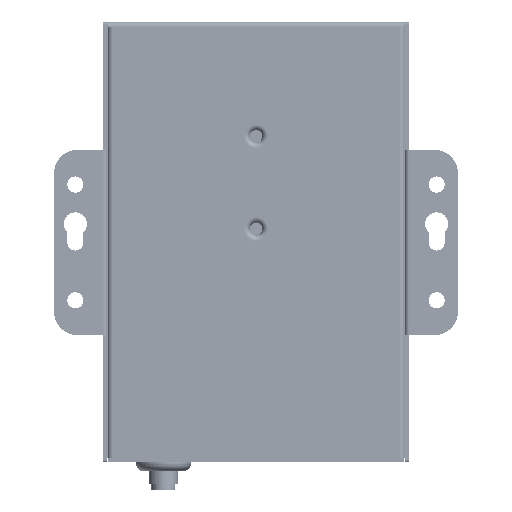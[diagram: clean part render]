
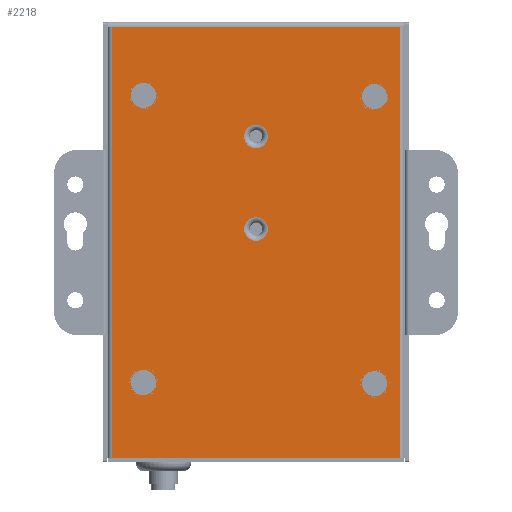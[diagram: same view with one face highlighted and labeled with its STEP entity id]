
A CAD part, front view. The second image highlights one B-rep face of the part: STEP entity #2218.
In plain terms, the highlighted planar face has unit normal (0, -1, 0).
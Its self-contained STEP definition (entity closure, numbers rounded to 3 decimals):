
#608=DIRECTION('',(-1.,0.,0.));
#609=VECTOR('',#608,62.);
#610=CARTESIAN_POINT('',(31.,0.,46.6));
#611=LINE('',#610,#609);
#615=DIRECTION('',(0.,0.,1.));
#616=VECTOR('',#615,0.1);
#617=CARTESIAN_POINT('',(31.,0.,46.5));
#618=LINE('',#617,#616);
#622=DIRECTION('',(0.,0.,1.));
#623=VECTOR('',#622,93.);
#624=CARTESIAN_POINT('',(31.,0.,-46.5));
#625=LINE('',#624,#623);
#629=DIRECTION('',(1.,0.,0.));
#630=VECTOR('',#629,62.);
#631=CARTESIAN_POINT('',(-31.,0.,-46.5));
#632=LINE('',#631,#630);
#636=DIRECTION('',(0.,0.,-1.));
#637=VECTOR('',#636,93.);
#638=CARTESIAN_POINT('',(-31.,0.,46.5));
#639=LINE('',#638,#637);
#643=DIRECTION('',(0.,0.,-1.));
#644=VECTOR('',#643,0.1);
#645=CARTESIAN_POINT('',(-31.,0.,46.6));
#646=LINE('',#645,#644);
#650=CARTESIAN_POINT('',(25.604,0.,-30.491));
#651=DIRECTION('',(0.,1.,0.));
#652=DIRECTION('',(-1.,0.,0.));
#653=AXIS2_PLACEMENT_3D('',#650,#651,#652);
#658=CARTESIAN_POINT('',(25.604,0.,-30.491));
#659=DIRECTION('',(0.,1.,0.));
#660=DIRECTION('',(1.,0.,0.));
#661=AXIS2_PLACEMENT_3D('',#658,#659,#660);
#666=CARTESIAN_POINT('',(25.604,0.,31.509));
#667=DIRECTION('',(0.,1.,0.));
#668=DIRECTION('',(-1.,0.,0.));
#669=AXIS2_PLACEMENT_3D('',#666,#667,#668);
#674=CARTESIAN_POINT('',(25.604,0.,31.509));
#675=DIRECTION('',(0.,1.,0.));
#676=DIRECTION('',(1.,0.,0.));
#677=AXIS2_PLACEMENT_3D('',#674,#675,#676);
#682=CARTESIAN_POINT('',(-24.296,0.,31.749));
#683=DIRECTION('',(0.,1.,0.));
#684=DIRECTION('',(-1.,0.,0.));
#685=AXIS2_PLACEMENT_3D('',#682,#683,#684);
#690=CARTESIAN_POINT('',(-24.296,0.,31.749));
#691=DIRECTION('',(0.,1.,0.));
#692=DIRECTION('',(1.,0.,0.));
#693=AXIS2_PLACEMENT_3D('',#690,#691,#692);
#698=CARTESIAN_POINT('',(-24.296,0.,-30.251));
#699=DIRECTION('',(0.,1.,0.));
#700=DIRECTION('',(-1.,0.,0.));
#701=AXIS2_PLACEMENT_3D('',#698,#699,#700);
#706=CARTESIAN_POINT('',(-24.296,0.,-30.251));
#707=DIRECTION('',(0.,1.,0.));
#708=DIRECTION('',(1.,0.,0.));
#709=AXIS2_PLACEMENT_3D('',#706,#707,#708);
#1100=CARTESIAN_POINT('',(0.,0.,22.9));
#1101=DIRECTION('',(0.,-1.,0.));
#1102=DIRECTION('',(0.,0.,-1.));
#1103=AXIS2_PLACEMENT_3D('',#1100,#1101,#1102);
#1124=CARTESIAN_POINT('',(0.,0.,22.9));
#1125=DIRECTION('',(0.,-1.,0.));
#1126=DIRECTION('',(0.,0.,1.));
#1127=AXIS2_PLACEMENT_3D('',#1124,#1125,#1126);
#1270=CARTESIAN_POINT('',(0.,0.,2.9));
#1271=DIRECTION('',(0.,-1.,0.));
#1272=DIRECTION('',(0.,0.,-1.));
#1273=AXIS2_PLACEMENT_3D('',#1270,#1271,#1272);
#1294=CARTESIAN_POINT('',(0.,0.,2.9));
#1295=DIRECTION('',(0.,-1.,0.));
#1296=DIRECTION('',(0.,0.,1.));
#1297=AXIS2_PLACEMENT_3D('',#1294,#1295,#1296);
#1558=CARTESIAN_POINT('',(31.,0.,-46.5));
#1559=CARTESIAN_POINT('',(31.,0.,46.5));
#1560=VERTEX_POINT('',#1558);
#1561=VERTEX_POINT('',#1559);
#1570=CARTESIAN_POINT('',(31.,0.,46.6));
#1571=CARTESIAN_POINT('',(-31.,0.,46.6));
#1572=VERTEX_POINT('',#1570);
#1573=VERTEX_POINT('',#1571);
#1594=CARTESIAN_POINT('',(-31.,0.,46.5));
#1595=CARTESIAN_POINT('',(-31.,0.,-46.5));
#1596=VERTEX_POINT('',#1594);
#1597=VERTEX_POINT('',#1595);
#1626=CARTESIAN_POINT('',(-26.996,0.,-30.251));
#1627=CARTESIAN_POINT('',(-21.596,0.,-30.251));
#1628=VERTEX_POINT('',#1626);
#1629=VERTEX_POINT('',#1627);
#1630=CARTESIAN_POINT('',(-26.996,0.,31.749));
#1631=CARTESIAN_POINT('',(-21.596,0.,31.749));
#1632=VERTEX_POINT('',#1630);
#1633=VERTEX_POINT('',#1631);
#1634=CARTESIAN_POINT('',(22.904,0.,31.509));
#1635=CARTESIAN_POINT('',(28.304,0.,31.509));
#1636=VERTEX_POINT('',#1634);
#1637=VERTEX_POINT('',#1635);
#1642=CARTESIAN_POINT('',(22.904,0.,-30.491));
#1643=CARTESIAN_POINT('',(28.304,0.,-30.491));
#1644=VERTEX_POINT('',#1642);
#1645=VERTEX_POINT('',#1643);
#1670=CARTESIAN_POINT('',(0.,0.,20.35));
#1672=VERTEX_POINT('',#1670);
#1676=CARTESIAN_POINT('',(0.,0.,25.45));
#1678=VERTEX_POINT('',#1676);
#1694=CARTESIAN_POINT('',(0.,0.,0.35));
#1696=VERTEX_POINT('',#1694);
#1700=CARTESIAN_POINT('',(0.,0.,5.45));
#1702=VERTEX_POINT('',#1700);
#2167=CARTESIAN_POINT('',(0.,0.,0.));
#2168=DIRECTION('',(0.,-1.,0.));
#2169=DIRECTION('',(0.,0.,-1.));
#2170=AXIS2_PLACEMENT_3D('',#2167,#2168,#2169);
#2171=PLANE('',#2170);
#2172=ORIENTED_EDGE('',*,*,#2136,.F.);
#2173=ORIENTED_EDGE('',*,*,#1833,.F.);
#2175=ORIENTED_EDGE('',*,*,#2174,.F.);
#2176=ORIENTED_EDGE('',*,*,#1933,.F.);
#2178=ORIENTED_EDGE('',*,*,#2177,.F.);
#2179=ORIENTED_EDGE('',*,*,#2035,.F.);
#2180=EDGE_LOOP('',(#2172,#2173,#2175,#2176,#2178,#2179));
#2181=FACE_OUTER_BOUND('',#2180,.F.);
#2183=ORIENTED_EDGE('',*,*,#2182,.F.);
#2185=ORIENTED_EDGE('',*,*,#2184,.F.);
#2186=EDGE_LOOP('',(#2183,#2185));
#2187=FACE_BOUND('',#2186,.F.);
#2189=ORIENTED_EDGE('',*,*,#2188,.F.);
#2191=ORIENTED_EDGE('',*,*,#2190,.F.);
#2192=EDGE_LOOP('',(#2189,#2191));
#2193=FACE_BOUND('',#2192,.F.);
#2195=ORIENTED_EDGE('',*,*,#2194,.F.);
#2197=ORIENTED_EDGE('',*,*,#2196,.F.);
#2198=EDGE_LOOP('',(#2195,#2197));
#2199=FACE_BOUND('',#2198,.F.);
#2201=ORIENTED_EDGE('',*,*,#2200,.F.);
#2203=ORIENTED_EDGE('',*,*,#2202,.F.);
#2204=EDGE_LOOP('',(#2201,#2203));
#2205=FACE_BOUND('',#2204,.F.);
#2207=ORIENTED_EDGE('',*,*,#2206,.T.);
#2209=ORIENTED_EDGE('',*,*,#2208,.T.);
#2210=EDGE_LOOP('',(#2207,#2209));
#2211=FACE_BOUND('',#2210,.F.);
#2213=ORIENTED_EDGE('',*,*,#2212,.T.);
#2215=ORIENTED_EDGE('',*,*,#2214,.T.);
#2216=EDGE_LOOP('',(#2213,#2215));
#2217=FACE_BOUND('',#2216,.F.);
#2218=ADVANCED_FACE('',(#2181,#2187,#2193,#2199,#2205,#2211,#2217),#2171,.T.);
#654=CIRCLE('',#653,2.7);
#662=CIRCLE('',#661,2.7);
#670=CIRCLE('',#669,2.7);
#678=CIRCLE('',#677,2.7);
#686=CIRCLE('',#685,2.7);
#694=CIRCLE('',#693,2.7);
#702=CIRCLE('',#701,2.7);
#710=CIRCLE('',#709,2.7);
#1104=CIRCLE('',#1103,2.55);
#1128=CIRCLE('',#1127,2.55);
#1274=CIRCLE('',#1273,2.55);
#1298=CIRCLE('',#1297,2.55);
#1833=EDGE_CURVE('',#1561,#1572,#618,.T.);
#1933=EDGE_CURVE('',#1597,#1560,#632,.T.);
#2035=EDGE_CURVE('',#1573,#1596,#646,.T.);
#2136=EDGE_CURVE('',#1572,#1573,#611,.T.);
#2174=EDGE_CURVE('',#1560,#1561,#625,.T.);
#2177=EDGE_CURVE('',#1596,#1597,#639,.T.);
#2182=EDGE_CURVE('',#1644,#1645,#654,.T.);
#2184=EDGE_CURVE('',#1645,#1644,#662,.T.);
#2188=EDGE_CURVE('',#1636,#1637,#670,.T.);
#2190=EDGE_CURVE('',#1637,#1636,#678,.T.);
#2194=EDGE_CURVE('',#1632,#1633,#686,.T.);
#2196=EDGE_CURVE('',#1633,#1632,#694,.T.);
#2200=EDGE_CURVE('',#1628,#1629,#702,.T.);
#2202=EDGE_CURVE('',#1629,#1628,#710,.T.);
#2206=EDGE_CURVE('',#1672,#1678,#1104,.T.);
#2208=EDGE_CURVE('',#1678,#1672,#1128,.T.);
#2212=EDGE_CURVE('',#1696,#1702,#1274,.T.);
#2214=EDGE_CURVE('',#1702,#1696,#1298,.T.);
